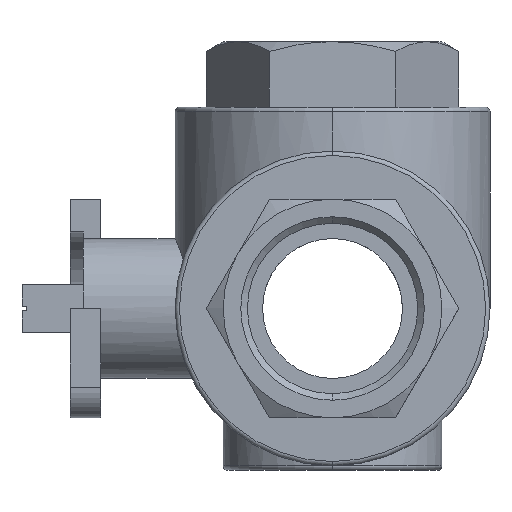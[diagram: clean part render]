
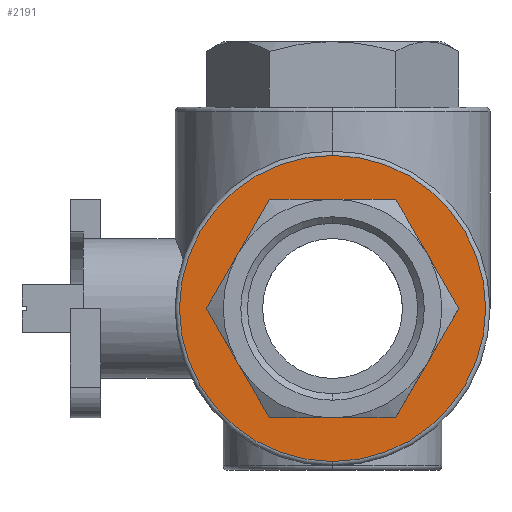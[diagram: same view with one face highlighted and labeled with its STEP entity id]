
A CAD part, left-side view. The second image highlights one B-rep face of the part: STEP entity #2191.
In plain terms, the highlighted planar face has unit normal (-1, 0, 0).
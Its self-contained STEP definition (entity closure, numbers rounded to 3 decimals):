
#66 = DIRECTION ( 'NONE',  ( -1., 0., 0. ) ) ;
#78 = CARTESIAN_POINT ( 'NONE',  ( -46.5, 0., 0. ) ) ;
#198 = LINE ( 'NONE', #2511, #4372 ) ;
#299 = EDGE_CURVE ( 'NONE', #4339, #4354, #2966, .T. ) ;
#303 = EDGE_CURVE ( 'NONE', #4354, #4363, #198, .T. ) ;
#306 = EDGE_CURVE ( 'NONE', #4363, #4350, #3992, .T. ) ;
#311 = EDGE_CURVE ( 'NONE', #4359, #4339, #2236, .T. ) ;
#319 = EDGE_CURVE ( 'NONE', #4346, #4359, #3471, .T. ) ;
#324 = EDGE_CURVE ( 'NONE', #4350, #4346, #3481, .T. ) ;
#384 = EDGE_CURVE ( 'NONE', #2674, #2671, #3552, .T. ) ;
#576 = EDGE_CURVE ( 'NONE', #2671, #2674, #3855, .T. ) ;
#631 = AXIS2_PLACEMENT_3D ( 'NONE', #78, #66, #2235 ) ;
#749 = AXIS2_PLACEMENT_3D ( 'NONE', #1663, #1678, #1679 ) ;
#791 = AXIS2_PLACEMENT_3D ( 'NONE', #1849, #1858, #1859 ) ;
#1663 = CARTESIAN_POINT ( 'NONE',  ( -46.5, 0., 0. ) ) ;
#1678 = DIRECTION ( 'NONE',  ( -1., 0., 0. ) ) ;
#1679 = DIRECTION ( 'NONE',  ( 0., 0., 1. ) ) ;
#1849 = CARTESIAN_POINT ( 'NONE',  ( -46.5, 0., 0. ) ) ;
#1857 = PLANE ( 'NONE',  #791 ) ;
#1858 = DIRECTION ( 'NONE',  ( -1., 0., 0. ) ) ;
#1859 = DIRECTION ( 'NONE',  ( 0., 0., 1. ) ) ;
#2061 = CARTESIAN_POINT ( 'NONE',  ( -46.5, 0., 35. ) ) ;
#2062 = CARTESIAN_POINT ( 'NONE',  ( -46.5, 0., -35. ) ) ;
#2145 = CARTESIAN_POINT ( 'NONE',  ( -46.5, -28.868, 0. ) ) ;
#2191 = ADVANCED_FACE ( 'NONE', ( #3915, #3904 ), #1857, .T. ) ;
#2235 = DIRECTION ( 'NONE',  ( 0., 0., 1. ) ) ;
#2236 = LINE ( 'NONE', #2476, #3465 ) ;
#2402 = DIRECTION ( 'NONE',  ( 0., -0.5, 0.866 ) ) ;
#2404 = CARTESIAN_POINT ( 'NONE',  ( -46.5, 21.651, 12.5 ) ) ;
#2416 = DIRECTION ( 'NONE',  ( 0., -1., 0. ) ) ;
#2431 = CARTESIAN_POINT ( 'NONE',  ( -46.5, 0., 25. ) ) ;
#2471 = DIRECTION ( 'NONE',  ( 0., -0.5, -0.866 ) ) ;
#2476 = CARTESIAN_POINT ( 'NONE',  ( -46.5, -21.651, 12.5 ) ) ;
#2489 = DIRECTION ( 'NONE',  ( 0., 0.5, 0.866 ) ) ;
#2490 = CARTESIAN_POINT ( 'NONE',  ( -46.5, 21.651, -12.5 ) ) ;
#2510 = DIRECTION ( 'NONE',  ( 0., 1., 0. ) ) ;
#2511 = CARTESIAN_POINT ( 'NONE',  ( -46.5, 0., -25. ) ) ;
#2540 = DIRECTION ( 'NONE',  ( 0., 0.5, -0.866 ) ) ;
#2541 = CARTESIAN_POINT ( 'NONE',  ( -46.5, -21.651, -12.5 ) ) ;
#2671 = VERTEX_POINT ( 'NONE', #2061 ) ;
#2674 = VERTEX_POINT ( 'NONE', #2062 ) ;
#2945 = EDGE_LOOP ( 'NONE', ( #3358, #3357 ) ) ;
#2966 = LINE ( 'NONE', #2541, #4001 ) ;
#3351 = ORIENTED_EDGE ( 'NONE', *, *, #306, .T. ) ;
#3352 = ORIENTED_EDGE ( 'NONE', *, *, #303, .T. ) ;
#3353 = ORIENTED_EDGE ( 'NONE', *, *, #299, .T. ) ;
#3354 = ORIENTED_EDGE ( 'NONE', *, *, #311, .T. ) ;
#3355 = ORIENTED_EDGE ( 'NONE', *, *, #319, .T. ) ;
#3356 = ORIENTED_EDGE ( 'NONE', *, *, #324, .T. ) ;
#3357 = ORIENTED_EDGE ( 'NONE', *, *, #384, .T. ) ;
#3358 = ORIENTED_EDGE ( 'NONE', *, *, #576, .T. ) ;
#3465 = VECTOR ( 'NONE', #2471, 1000. ) ;
#3471 = LINE ( 'NONE', #2431, #3473 ) ;
#3473 = VECTOR ( 'NONE', #2416, 1000. ) ;
#3481 = LINE ( 'NONE', #2404, #3482 ) ;
#3482 = VECTOR ( 'NONE', #2402, 1000. ) ;
#3552 = CIRCLE ( 'NONE', #631, 35. ) ;
#3855 = CIRCLE ( 'NONE', #749, 35. ) ;
#3904 = FACE_BOUND ( 'NONE', #4206, .T. ) ;
#3915 = FACE_OUTER_BOUND ( 'NONE', #2945, .T. ) ;
#3992 = LINE ( 'NONE', #2490, #4371 ) ;
#4001 = VECTOR ( 'NONE', #2540, 1000. ) ;
#4206 = EDGE_LOOP ( 'NONE', ( #3356, #3355, #3354, #3353, #3352, #3351 ) ) ;
#4280 = CARTESIAN_POINT ( 'NONE',  ( -46.5, 14.434, 25. ) ) ;
#4284 = CARTESIAN_POINT ( 'NONE',  ( -46.5, 28.868, 0. ) ) ;
#4288 = CARTESIAN_POINT ( 'NONE',  ( -46.5, -14.434, -25. ) ) ;
#4293 = CARTESIAN_POINT ( 'NONE',  ( -46.5, -14.434, 25. ) ) ;
#4297 = CARTESIAN_POINT ( 'NONE',  ( -46.5, 14.434, -25. ) ) ;
#4339 = VERTEX_POINT ( 'NONE', #2145 ) ;
#4346 = VERTEX_POINT ( 'NONE', #4280 ) ;
#4350 = VERTEX_POINT ( 'NONE', #4284 ) ;
#4354 = VERTEX_POINT ( 'NONE', #4288 ) ;
#4359 = VERTEX_POINT ( 'NONE', #4293 ) ;
#4363 = VERTEX_POINT ( 'NONE', #4297 ) ;
#4371 = VECTOR ( 'NONE', #2489, 1000. ) ;
#4372 = VECTOR ( 'NONE', #2510, 1000. ) ;
